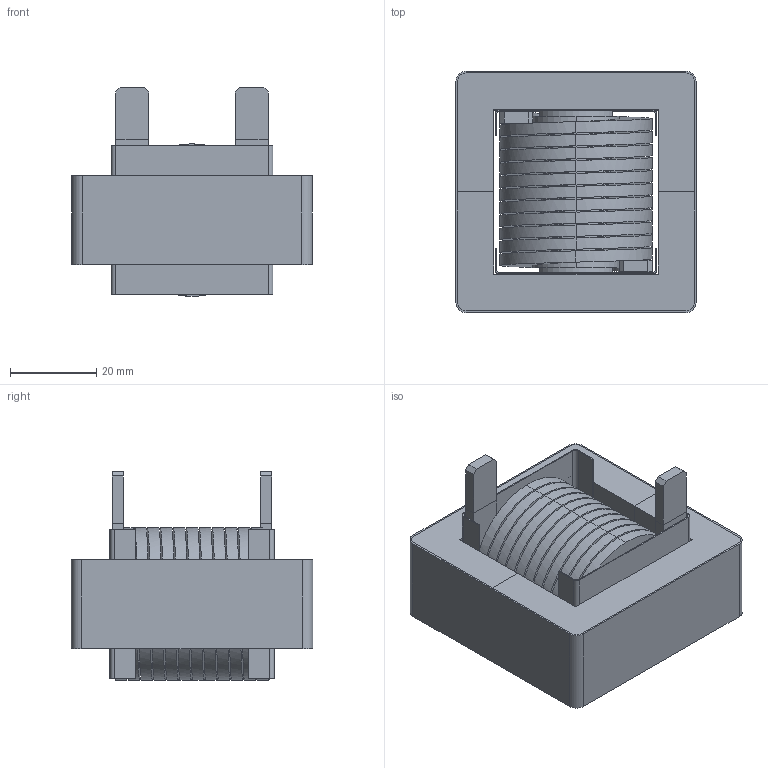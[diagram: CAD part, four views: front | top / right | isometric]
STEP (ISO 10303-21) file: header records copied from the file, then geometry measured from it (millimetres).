
FILE_DESCRIPTION (( 'STEP AP214' ), '1' );
FILE_NAME ('ES55204-200M-160AH.STEP', '2021-05-19T10:19:27', ( '' ), ( '' ), 'SwSTEP 2.0', 'SolidWorks 2015', '' );
FILE_SCHEMA (( 'AUTOMOTIVE_DESIGN' ));
Length unit declared in the file: millimetre
Products named in the file (6): CENTER MYLAR; E CORE; HELICAL COIL; SIDE MYLAR; WRAPPER; ES55204-200M-160AH
Assembly tree (7 placements, depth 2):
  ES55204-200M-160AH
    HELICAL COIL
    E CORE  x2
    SIDE MYLAR  x2
    CENTER MYLAR
    WRAPPER
Bounding box: 55.62 x 55.9 x 48.3 mm (x, y, z)
Volume: 66187.3 mm3; surface area: 54426.8 mm2
Topology: 9 solids, 9 shells, 320 faces, 856 edges, 568 vertices
Faces by surface type: plane 181, cylinder 80, bspline 59
Entity records: 15948 total; most frequent: CARTESIAN_POINT 7338, ORIENTED_EDGE 1544, DIRECTION 1076, EDGE_CURVE 772, VERTEX_POINT 512, LINE 508, VECTOR 508, EDGE_LOOP 310
